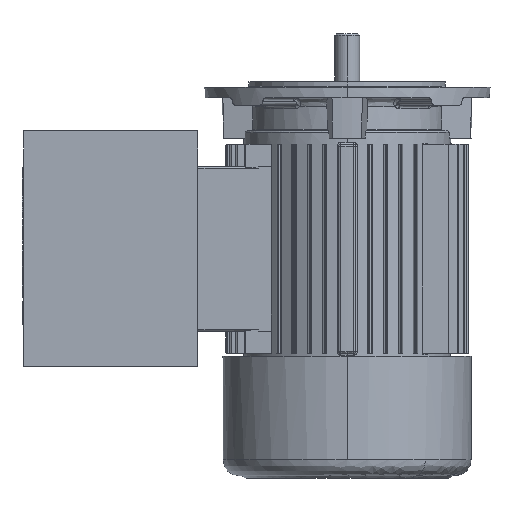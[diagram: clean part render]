
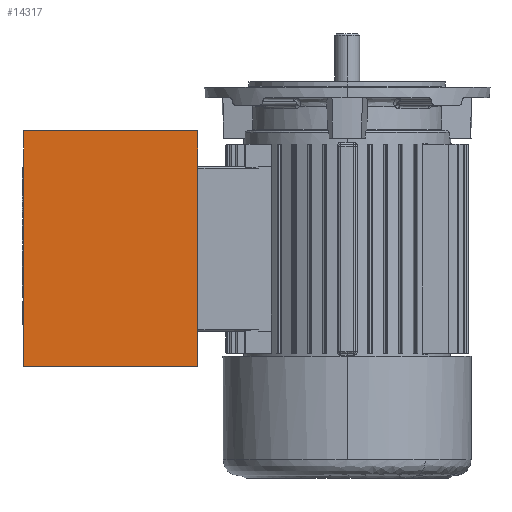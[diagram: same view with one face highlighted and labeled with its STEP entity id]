
A CAD part, left-side view. The second image highlights one B-rep face of the part: STEP entity #14317.
In plain terms, the highlighted planar face has unit normal (-1, 0, 0).
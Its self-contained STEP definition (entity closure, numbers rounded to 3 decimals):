
#57 = EDGE_LOOP ( 'NONE', ( #3186, #17756, #32466, #22337 ) ) ;
#1287 = LINE ( 'NONE', #32163, #27583 ) ;
#2465 = DIRECTION ( 'NONE',  ( 0., 0., 1. ) ) ;
#3186 = ORIENTED_EDGE ( 'NONE', *, *, #18002, .T. ) ;
#4264 = CARTESIAN_POINT ( 'NONE',  ( -66., 181., -66. ) ) ;
#4420 = PLANE ( 'NONE',  #17413 ) ;
#6322 = DIRECTION ( 'NONE',  ( 0., 0., -1. ) ) ;
#8716 = CARTESIAN_POINT ( 'NONE',  ( -66., 181., -66. ) ) ;
#9431 = CARTESIAN_POINT ( 'NONE',  ( -66., 83.5, -66. ) ) ;
#9472 = EDGE_CURVE ( 'NONE', #21244, #28900, #15500, .T. ) ;
#10313 = CARTESIAN_POINT ( 'NONE',  ( -66., 181., 66. ) ) ;
#12089 = EDGE_CURVE ( 'NONE', #28900, #23597, #22922, .T. ) ;
#13713 = VECTOR ( 'NONE', #2465, 1000. ) ;
#14317 = ADVANCED_FACE ( 'NONE', ( #31684 ), #4420, .T. ) ;
#14528 = DIRECTION ( 'NONE',  ( 0., 0., 1. ) ) ;
#15500 = LINE ( 'NONE', #24108, #19890 ) ;
#16628 = DIRECTION ( 'NONE',  ( 0., 1., 0. ) ) ;
#16806 = CARTESIAN_POINT ( 'NONE',  ( -66., 83.5, -66. ) ) ;
#17113 = EDGE_CURVE ( 'NONE', #20198, #21244, #19681, .T. ) ;
#17413 = AXIS2_PLACEMENT_3D ( 'NONE', #31992, #24916, #14528 ) ;
#17756 = ORIENTED_EDGE ( 'NONE', *, *, #12089, .F. ) ;
#18002 = EDGE_CURVE ( 'NONE', #20198, #23597, #1287, .T. ) ;
#18863 = VECTOR ( 'NONE', #6322, 1000. ) ;
#19194 = DIRECTION ( 'NONE',  ( 0., 1., 0. ) ) ;
#19520 = CARTESIAN_POINT ( 'NONE',  ( -66., 83.5, 66. ) ) ;
#19681 = LINE ( 'NONE', #16806, #18863 ) ;
#19890 = VECTOR ( 'NONE', #19194, 1000. ) ;
#20198 = VERTEX_POINT ( 'NONE', #19520 ) ;
#21244 = VERTEX_POINT ( 'NONE', #9431 ) ;
#22337 = ORIENTED_EDGE ( 'NONE', *, *, #17113, .F. ) ;
#22922 = LINE ( 'NONE', #4264, #13713 ) ;
#23597 = VERTEX_POINT ( 'NONE', #10313 ) ;
#24108 = CARTESIAN_POINT ( 'NONE',  ( -66., -107.419, -66. ) ) ;
#24916 = DIRECTION ( 'NONE',  ( -1., 0., 0. ) ) ;
#27583 = VECTOR ( 'NONE', #16628, 1000. ) ;
#28900 = VERTEX_POINT ( 'NONE', #8716 ) ;
#31684 = FACE_OUTER_BOUND ( 'NONE', #57, .T. ) ;
#31992 = CARTESIAN_POINT ( 'NONE',  ( -66., -107.419, -66. ) ) ;
#32163 = CARTESIAN_POINT ( 'NONE',  ( -66., -107.419, 66. ) ) ;
#32466 = ORIENTED_EDGE ( 'NONE', *, *, #9472, .F. ) ;
